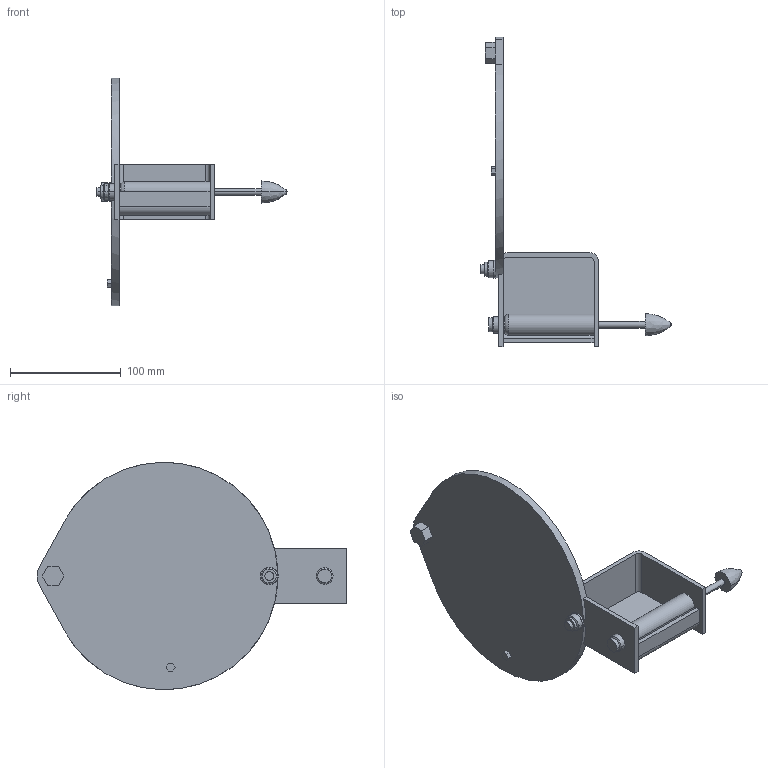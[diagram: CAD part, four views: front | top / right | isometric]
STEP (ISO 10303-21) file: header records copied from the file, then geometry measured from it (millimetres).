
FILE_DESCRIPTION((''),'2;1');
FILE_NAME('APS_405','2022-05-25T14:57:27',('Tomas Bellgran'),(''),'CREO PARAMETRIC BY PTC INC, 2018260','CREO PARAMETRIC BY PTC INC, 2018260','');
FILE_SCHEMA(('AUTOMOTIVE_DESIGN { 1 0 10303 214 1 1 1 1 }'));
Length unit declared in the file: millimetre
Products named in the file (1): APS_405
Bounding box: 171.5 x 279.34 x 204.92 mm (x, y, z)
Volume: 344159.3 mm3; surface area: 118883.9 mm2
Topology: 1 solids, 1 shells, 83 faces, 206 edges, 131 vertices
Faces by surface type: plane 43, cylinder 26, cone 8, torus 2, bspline 2, sphere 2
Entity records: 3994 total; most frequent: CARTESIAN_POINT 483, DIRECTION 453, ORIENTED_EDGE 408, PRESENTATION_STYLE_ASSIGNMENT 252, STYLED_ITEM 205, CURVE_STYLE 204, EDGE_CURVE 204, AXIS2_PLACEMENT_3D 160
